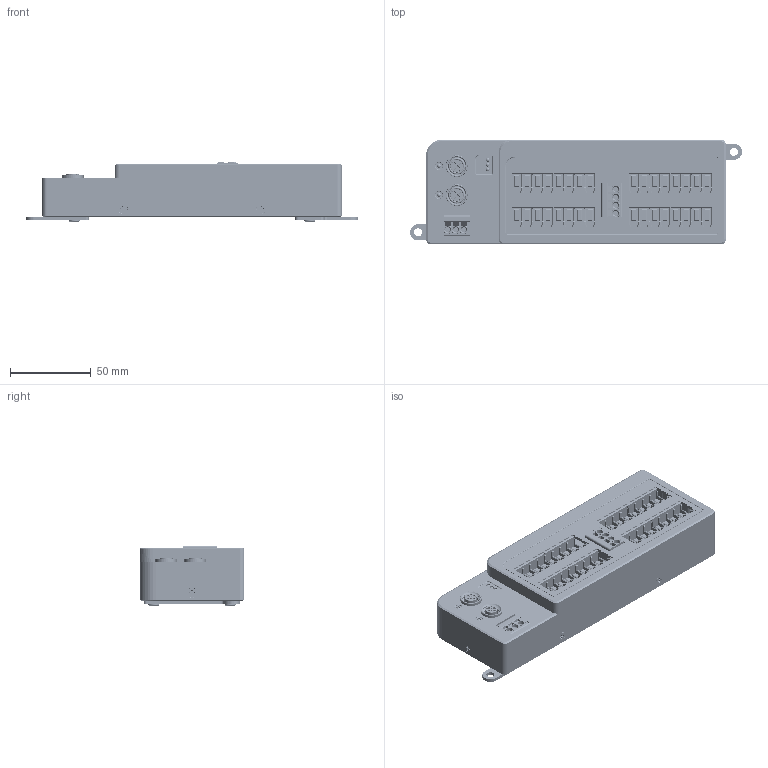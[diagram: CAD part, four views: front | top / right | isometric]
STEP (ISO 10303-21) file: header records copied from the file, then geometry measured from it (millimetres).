
FILE_DESCRIPTION((''),'2;1');
FILE_NAME('MR5201-EA_ASM_21_ASM_1_ASM','2025-06-23T17:41:30',('Administrator'),('yulong DESIGN'),'CREO PARAMETRIC BY PTC INC, 2021023','CREO PARAMETRIC BY PTC INC, 2021023','');
FILE_SCHEMA(('AUTOMOTIVE_DESIGN { 1 0 10303 214 1 1 1 1 }'));
Products named in the file (20): MR5201-EA_SKEL_2_1; FRONT_COVER_MR5201_30_1; REAR_COVER_MR5201_8_1; FRONT_PCBA_MR5201_29_1; REAR_PCBA_COMMON_26_1; LIGHT_PIPE_11D7_PWR_2_1; LIGHT_PIPE_10_IO_1_1; MYLAR_NUBER_INDICATOR_13_1; SCREW_PH_M4X6_1_1; SCREW_FLAT_M3X8_1_1; SCREW_PH_M2D5X5_1_1; SCREWS_ASM_2_ASM_1_ASM; EK-B403_1; DINKLE_0177-5304_1; DINKLE_0177-5303_1; _5_1__10001_101_13; _5_2__10001_101_13; M12D_10001_ASM_101_ASM_13_ASM; CLW-1_18; MR5201-EA_ASM_21_ASM_1_ASM
Assembly tree (79 placements, depth 3):
  MR5201-EA_ASM_21_ASM_1_ASM
    MR5201-EA_SKEL_2_1
    FRONT_COVER_MR5201_30_1
    REAR_COVER_MR5201_8_1
    FRONT_PCBA_MR5201_29_1
    REAR_PCBA_COMMON_26_1
    LIGHT_PIPE_11D7_PWR_2_1  x5
    LIGHT_PIPE_10_IO_1_1  x32
    MYLAR_NUBER_INDICATOR_13_1
    SCREWS_ASM_2_ASM_1_ASM
      SCREW_PH_M4X6_1_1  x4
      SCREW_FLAT_M3X8_1_1  x6
      SCREW_PH_M2D5X5_1_1  x9
    EK-B403_1  x8
    DINKLE_0177-5304_1
    DINKLE_0177-5303_1
    M12D_10001_ASM_101_ASM_13_ASM  x2
      _5_1__10001_101_13
      _5_2__10001_101_13
    CLW-1_18  x2
Bounding box: 206 x 65 x 37.19 mm (x, y, z)
Volume: 145734.6 mm3; surface area: 160167.4 mm2
Topology: 77 solids, 308 shells, 8370 faces, 25037 edges, 17219 vertices
Faces by surface type: plane 5239, cylinder 2111, cone 445, bspline 255, torus 201, sphere 89, revolution 26, extrusion 4
Entity records: 156319 total; most frequent: CARTESIAN_POINT 46666, ORIENTED_EDGE 17675, DIRECTION 16779, EDGE_CURVE 10277, VERTEX_POINT 7623, AXIS2_PLACEMENT_3D 5716, PRESENTATION_STYLE_ASSIGNMENT 5673, STYLED_ITEM 5609
